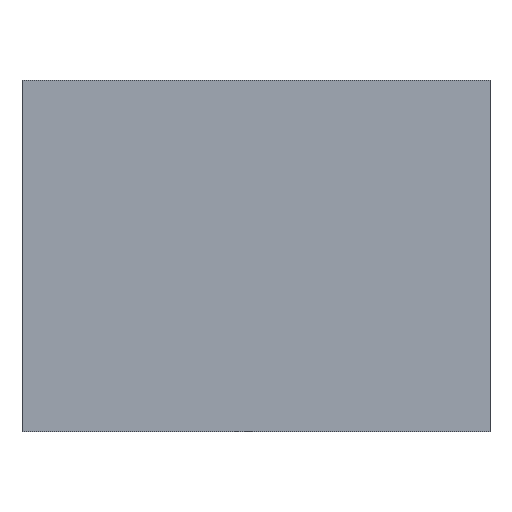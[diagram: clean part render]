
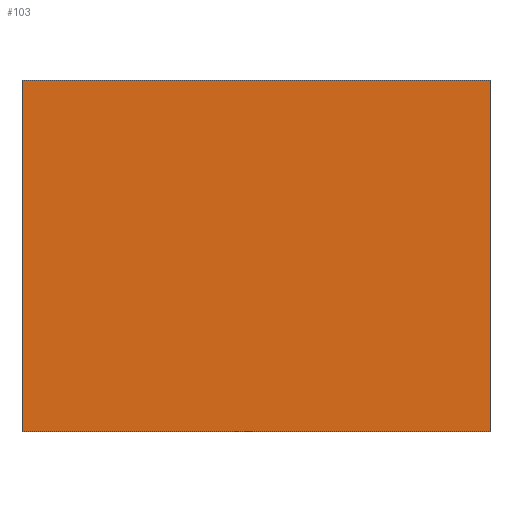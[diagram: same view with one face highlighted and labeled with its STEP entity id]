
A CAD part, front view. The second image highlights one B-rep face of the part: STEP entity #103.
In plain terms, the highlighted planar face has unit normal (0, -1, 0).
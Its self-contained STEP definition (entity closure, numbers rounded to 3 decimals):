
#17=FACE_OUTER_BOUND('',#23,.T.);
#23=EDGE_LOOP('',(#79,#80,#81,#82));
#27=LINE('',#157,#39);
#31=LINE('',#166,#43);
#35=LINE('',#173,#47);
#36=LINE('',#174,#48);
#39=VECTOR('',#131,1.);
#43=VECTOR('',#137,1.);
#47=VECTOR('',#143,1.);
#48=VECTOR('',#144,1.);
#51=VERTEX_POINT('',#155);
#52=VERTEX_POINT('',#156);
#55=VERTEX_POINT('',#164);
#56=VERTEX_POINT('',#165);
#59=EDGE_CURVE('',#51,#52,#27,.T.);
#63=EDGE_CURVE('',#55,#56,#31,.T.);
#67=EDGE_CURVE('',#51,#55,#35,.T.);
#68=EDGE_CURVE('',#52,#56,#36,.T.);
#79=ORIENTED_EDGE('',*,*,#67,.T.);
#80=ORIENTED_EDGE('',*,*,#63,.T.);
#81=ORIENTED_EDGE('',*,*,#68,.F.);
#82=ORIENTED_EDGE('',*,*,#59,.F.);
#97=PLANE('',#123);
#103=ADVANCED_FACE('',(#17),#97,.F.);
#123=AXIS2_PLACEMENT_3D('',#172,#141,#142);
#131=DIRECTION('',(0.,0.,1.));
#137=DIRECTION('',(0.,0.,1.));
#141=DIRECTION('center_axis',(0.,1.,0.));
#142=DIRECTION('ref_axis',(0.,0.,1.));
#143=DIRECTION('',(1.,0.,0.));
#144=DIRECTION('',(1.,0.,0.));
#155=CARTESIAN_POINT('',(9.5,-15.,-20.93));
#156=CARTESIAN_POINT('',(9.5,-15.,-20.33));
#157=CARTESIAN_POINT('',(9.5,-15.,-20.93));
#164=CARTESIAN_POINT('',(10.3,-15.,-20.93));
#165=CARTESIAN_POINT('',(10.3,-15.,-20.33));
#166=CARTESIAN_POINT('',(10.3,-15.,-20.93));
#172=CARTESIAN_POINT('Origin',(9.5,-15.,-20.93));
#173=CARTESIAN_POINT('',(9.5,-15.,-20.93));
#174=CARTESIAN_POINT('',(9.5,-15.,-20.33));
